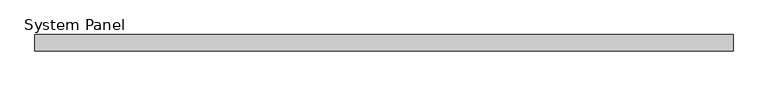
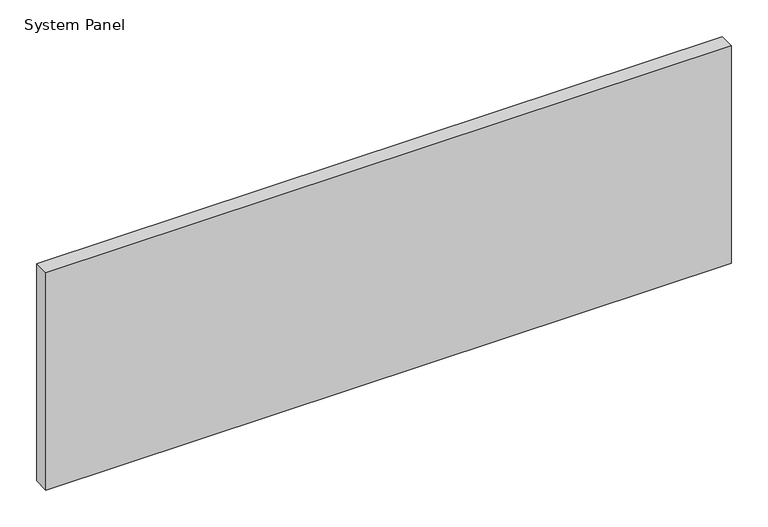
"""IFC4 building model written with IfcOpenShell, lengths in millimetres: plate geometry, System Panel : Glazed - ACMP (AL-1)."""

from ifc_helpers import new_model, si_unit, origin, origin_with_axes, place, context, project, spatial, polyline, outline, extrude, source, transform, mapped, element, save


def system_panel_4b0509fa(model_context):
    return source(origin(), model_context, "Body", "SweptSolid", [
        extrude(outline(polyline([(539.75, 0.0), (-539.75, 0.0), (-539.75, 25.4), (539.75, 25.4), (539.75, 0.0)])), origin_with_axes(), (0.0, 0.0, 1.0), 361.95),
    ])


if __name__ == "__main__":
    model = new_model("IFC4")
    model_context = context("Model", 3, world=origin())
    ifc_project = project(units=[si_unit("LENGTHUNIT", "METRE", prefix="MILLI")], contexts=[model_context])
    site = spatial("IfcSite", under=ifc_project)
    building = spatial("IfcBuilding", under=site)
    placement = place(None, origin())
    system_panel_shape = system_panel_4b0509fa(model_context)
    element("IfcPlate", 1, ObjectType="System Panel : Glazed - ACMP (AL-1)", at=placement, inside=building, context=model_context, shape_type="MappedRepresentation", body=[
        mapped(system_panel_shape, transform((0.0, 0.0, 0.0), x_axis=(1.0, 0.0, 0.0), y_axis=(0.0, 1.0, 0.0), z_axis=(0.0, 0.0, 1.0))),
    ])
    save(model, "model.ifc")
